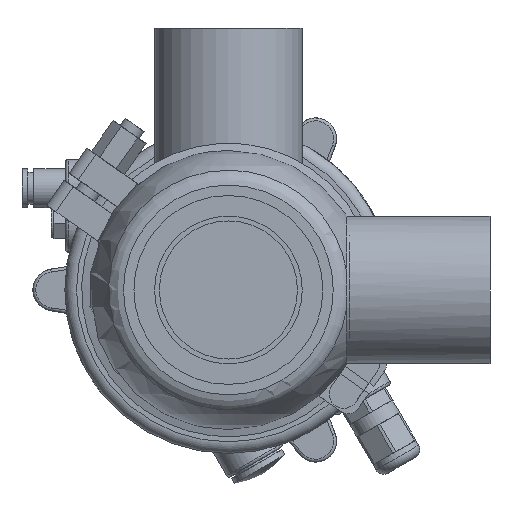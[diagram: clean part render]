
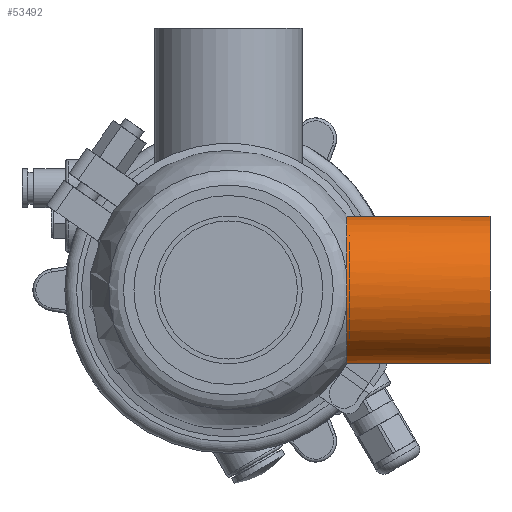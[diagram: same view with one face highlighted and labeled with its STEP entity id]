
A CAD part, front view. The second image highlights one B-rep face of the part: STEP entity #53492.
In plain terms, the highlighted cylindrical face has radius 25.4 mm (diameter 50.8 mm), a full revolution.
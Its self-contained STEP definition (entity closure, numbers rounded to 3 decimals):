
#52 = CARTESIAN_POINT ( 'NONE',  ( 40.729, -24.652, 6.117 ) ) ;
#504 = DIRECTION ( 'NONE',  ( -1., 0., 0. ) ) ;
#2590 = CARTESIAN_POINT ( 'NONE',  ( 90., 0., 25.4 ) ) ;
#3780 = CARTESIAN_POINT ( 'NONE',  ( 40.711, -25.088, 4.101 ) ) ;
#4080 = CARTESIAN_POINT ( 'NONE',  ( 40.681, -25.337, 2.066 ) ) ;
#4428 = DIRECTION ( 'NONE',  ( 0., 0., 1. ) ) ;
#4532 = CARTESIAN_POINT ( 'NONE',  ( 0., 0., 0. ) ) ;
#5185 = CIRCLE ( 'NONE', #39789, 25.4 ) ;
#7715 = CARTESIAN_POINT ( 'NONE',  ( 40.729, -24.652, -6.117 ) ) ;
#9173 = DIRECTION ( 'NONE',  ( 0., 0., 1. ) ) ;
#9785 = FACE_OUTER_BOUND ( 'NONE', #13805, .T. ) ;
#11935 = EDGE_CURVE ( 'NONE', #42600, #50709, #5185, .T. ) ;
#13655 = CARTESIAN_POINT ( 'NONE',  ( 40.669, -25.4, -0.503 ) ) ;
#13805 = EDGE_LOOP ( 'NONE', ( #61108, #39307 ) ) ;
#16610 = EDGE_CURVE ( 'NONE', #35674, #35674, #25324, .T. ) ;
#18615 = CARTESIAN_POINT ( 'NONE',  ( 40.729, -24.902, 5.113 ) ) ;
#18626 = CARTESIAN_POINT ( 'NONE',  ( 90., 0., 0. ) ) ;
#18754 = FACE_OUTER_BOUND ( 'NONE', #20257, .T. ) ;
#18916 = CARTESIAN_POINT ( 'NONE',  ( 40.67, -25.4, 1.042 ) ) ;
#20257 = EDGE_LOOP ( 'NONE', ( #59921 ) ) ;
#22394 = EDGE_CURVE ( 'NONE', #50709, #42600, #35506, .T. ) ;
#23378 = CYLINDRICAL_SURFACE ( 'NONE', #49418, 25.4 ) ;
#25324 = CIRCLE ( 'NONE', #53084, 25.4 ) ;
#32505 = CARTESIAN_POINT ( 'NONE',  ( 40.672, -25.385, -1.022 ) ) ;
#33105 = CARTESIAN_POINT ( 'NONE',  ( 40.729, -24.652, -6.117 ) ) ;
#33440 = CARTESIAN_POINT ( 'NONE',  ( 40.682, -25.322, -2.053 ) ) ;
#35506 = B_SPLINE_CURVE_WITH_KNOTS ( 'NONE', 3,
 ( #52, #18615, #3780, #4080, #18916, #13655, #32505, #33440, #51430, #42770, #51722, #33105 ),
 .UNSPECIFIED., .F., .F.,
 ( 4, 2, 2, 2, 2, 4 ),
 ( 0., 0.003, 0.006, 0.008, 0.009, 0.012 ),
 .UNSPECIFIED. ) ;
#35674 = VERTEX_POINT ( 'NONE', #2590 ) ;
#39307 = ORIENTED_EDGE ( 'NONE', *, *, #22394, .T. ) ;
#39321 = CARTESIAN_POINT ( 'NONE',  ( 40.729, -24.652, 6.117 ) ) ;
#39789 = AXIS2_PLACEMENT_3D ( 'NONE', #60415, #46791, #4428 ) ;
#42600 = VERTEX_POINT ( 'NONE', #7715 ) ;
#42770 = CARTESIAN_POINT ( 'NONE',  ( 40.711, -25.088, -4.099 ) ) ;
#46791 = DIRECTION ( 'NONE',  ( 1., 0., 0. ) ) ;
#47405 = DIRECTION ( 'NONE',  ( -1., 0., 0. ) ) ;
#49418 = AXIS2_PLACEMENT_3D ( 'NONE', #4532, #504, #9173 ) ;
#50709 = VERTEX_POINT ( 'NONE', #39321 ) ;
#51430 = CARTESIAN_POINT ( 'NONE',  ( 40.689, -25.275, -2.566 ) ) ;
#51722 = CARTESIAN_POINT ( 'NONE',  ( 40.729, -24.902, -5.113 ) ) ;
#53084 = AXIS2_PLACEMENT_3D ( 'NONE', #18626, #47405, #56702 ) ;
#53492 = ADVANCED_FACE ( 'NONE', ( #9785, #18754 ), #23378, .T. ) ;
#56702 = DIRECTION ( 'NONE',  ( 0., 0., 1. ) ) ;
#59921 = ORIENTED_EDGE ( 'NONE', *, *, #16610, .T. ) ;
#60415 = CARTESIAN_POINT ( 'NONE',  ( 40.729, 0., 0. ) ) ;
#61108 = ORIENTED_EDGE ( 'NONE', *, *, #11935, .T. ) ;
